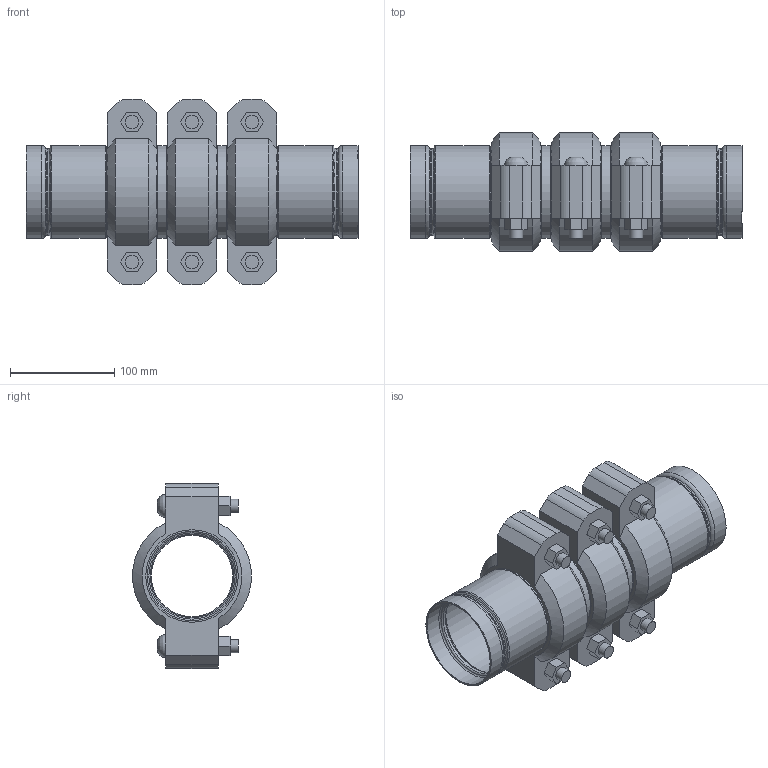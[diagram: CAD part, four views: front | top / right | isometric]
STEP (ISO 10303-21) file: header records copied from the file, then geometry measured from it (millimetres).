
FILE_DESCRIPTION(/* description */ ('VIC STRENGTHIN 100 EXPANSION JOINT 3 COUPLINGS COMPRESSED STYLE E155 (ST1)','CAx-IF Rec.Pracs.---Representation and Presentation of Product Manufacturing Information (PMI)---4.0---2014-10-13'),/* implementation_level */ '2;1');
FILE_NAME(/* name */ 'C:\Users\Vjadhav\AppData\Roaming\Autodesk\ApplicationPlugins\Victaulic.Temp\A21\Victaulic_SS-StrengThin 100_Expansion Joint_Compressed_3 Couplings_Style E155 (ST1)_3 (80).stp',/* time_stamp */ '2021-07-23T12:30:18+05:00',/* author */ ('kkamble'),/* organization */ ('Victaulic'),/* preprocessor_version */ 'ST-DEVELOPER v17.2',/* originating_system */ 'Autodesk Inventor 2019',/* authorisation */ '');
FILE_SCHEMA (('AP242_MANAGED_MODEL_BASED_3D_ENGINEERING_MIM_LF { 1 0 10303 442 1 1 4 }'));
Length unit declared in the file: inch
Products named in the file (4): E155-03.0; E494G-03.0; Nipple-03.0; 075-03.0
Assembly tree (7 placements, depth 2):
  E155-03.0
    E494G-03.0  x2
    Nipple-03.0  x2
    075-03.0  x3
Bounding box: 319.02 x 113.88 x 177.8 mm (x, y, z)
Volume: 1236144 mm3; surface area: 365415.1 mm2
Topology: 7 solids, 13 shells, 251 faces, 663 edges, 472 vertices
Faces by surface type: plane 126, cylinder 71, torus 32, cone 16, bspline 6
Full cylindrical faces by diameter (mm): 12.7 x12, 14.605 x6, 77.927 x2, 79.985 x2, 81.737 x2, 83.185 x2, 84.938 x6, 85.7 x6, 88.9 x15
Entity records: 3615 total; most frequent: DIRECTION 639, CARTESIAN_POINT 639, ORIENTED_EDGE 536, AXIS2_PLACEMENT_3D 271, EDGE_CURVE 268, VERTEX_POINT 193, CIRCLE 163, EDGE_LOOP 123
